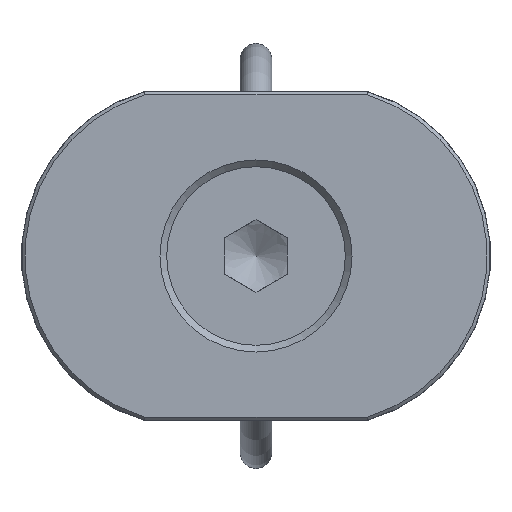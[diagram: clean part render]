
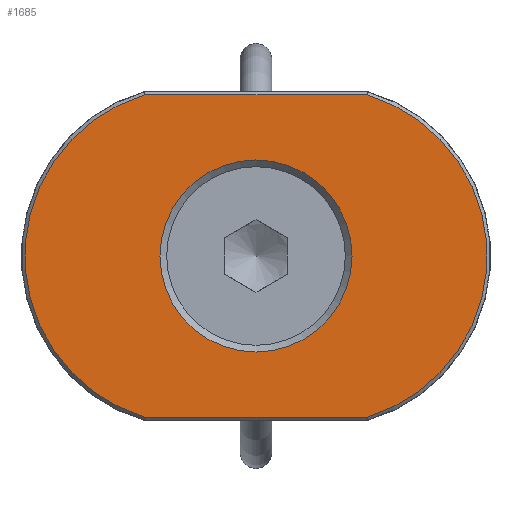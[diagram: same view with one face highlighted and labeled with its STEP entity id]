
A CAD part, front view. The second image highlights one B-rep face of the part: STEP entity #1685.
In plain terms, the highlighted planar face has unit normal (0, -1, 0).
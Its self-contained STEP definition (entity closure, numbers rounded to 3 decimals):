
#1326=CARTESIAN_POINT('',(6.1,-34.0,0.));
#1327=VERTEX_POINT('',#1326);
#1328=CARTESIAN_POINT('',(0.,-34.0,0.));
#1329=DIRECTION('',(0.0,1.0,0.0));
#1330=DIRECTION('',(1.0,0.0,0.0));
#1331=AXIS2_PLACEMENT_3D('',#1328,#1329,#1330);
#1332=CIRCLE('',#1331,6.1);
#1333=EDGE_CURVE('',#1327,#1327,#1332,.T.);
#1623=CARTESIAN_POINT('',(7.068,-34.0,10.231));
#1624=VERTEX_POINT('',#1623);
#1632=CARTESIAN_POINT('',(7.068,-34.0,-10.231));
#1633=VERTEX_POINT('',#1632);
#1634=CARTESIAN_POINT('',(4.0,-34.0,0.));
#1635=DIRECTION('',(0.,1.0,0.));
#1636=DIRECTION('',(0.284,0.,-0.959));
#1637=AXIS2_PLACEMENT_3D('',#1634,#1635,#1636);
#1638=CIRCLE('',#1637,10.681);
#1639=EDGE_CURVE('',#1624,#1633,#1638,.T.);
#1651=CARTESIAN_POINT('',(-7.,-34.0,0.));
#1652=DIRECTION('',(0.0,-1.0,0.0));
#1653=DIRECTION('',(0.0,0.0,1.0));
#1654=AXIS2_PLACEMENT_3D('',#1651,#1652,#1653);
#1655=PLANE('',#1654);
#1656=CARTESIAN_POINT('',(-7.068,-34.0,-10.231));
#1657=VERTEX_POINT('',#1656);
#1658=CARTESIAN_POINT('',(7.068,-34.0,-10.231));
#1659=DIRECTION('',(-1.0,0.0,0.0));
#1660=VECTOR('',#1659,14.135);
#1661=LINE('',#1658,#1660);
#1662=EDGE_CURVE('',#1633,#1657,#1661,.T.);
#1663=ORIENTED_EDGE('',*,*,#1662,.F.);
#1664=ORIENTED_EDGE('',*,*,#1639,.F.);
#1665=CARTESIAN_POINT('',(-7.068,-34.0,10.231));
#1666=VERTEX_POINT('',#1665);
#1667=CARTESIAN_POINT('',(-7.068,-34.0,10.231));
#1668=DIRECTION('',(1.0,0.0,0.0));
#1669=VECTOR('',#1668,14.135);
#1670=LINE('',#1667,#1669);
#1671=EDGE_CURVE('',#1666,#1624,#1670,.T.);
#1672=ORIENTED_EDGE('',*,*,#1671,.F.);
#1673=CARTESIAN_POINT('',(-4.,-34.0,0.));
#1674=DIRECTION('',(0.,1.0,0.));
#1675=DIRECTION('',(-0.284,0.,0.959));
#1676=AXIS2_PLACEMENT_3D('',#1673,#1674,#1675);
#1677=CIRCLE('',#1676,10.681);
#1678=EDGE_CURVE('',#1657,#1666,#1677,.T.);
#1679=ORIENTED_EDGE('',*,*,#1678,.F.);
#1680=EDGE_LOOP('',(#1663,#1664,#1672,#1679));
#1681=FACE_OUTER_BOUND('',#1680,.T.);
#1682=ORIENTED_EDGE('',*,*,#1333,.T.);
#1683=EDGE_LOOP('',(#1682));
#1684=FACE_BOUND('',#1683,.T.);
#1685=ADVANCED_FACE('',(#1681,#1684),#1655,.T.);
